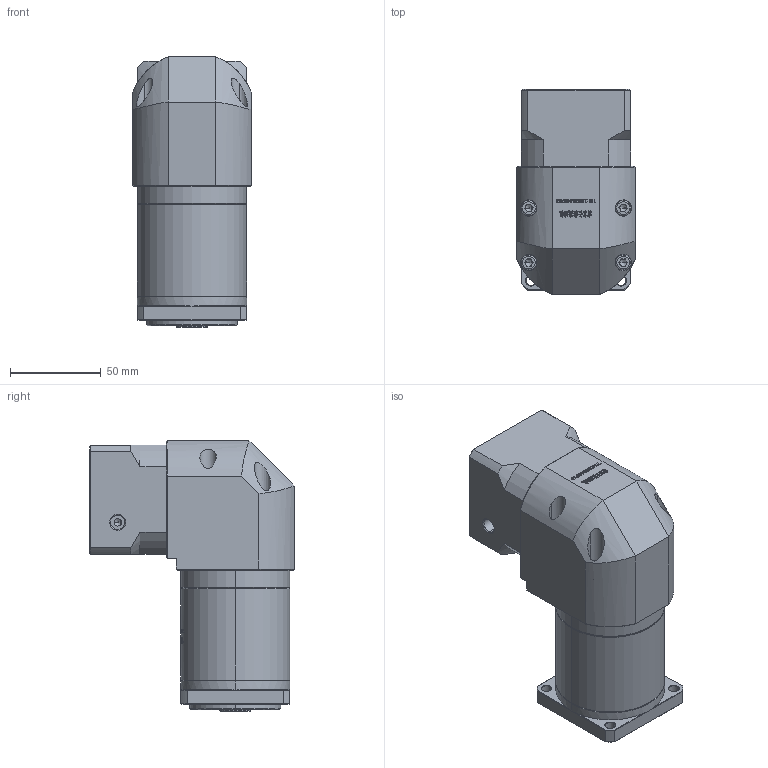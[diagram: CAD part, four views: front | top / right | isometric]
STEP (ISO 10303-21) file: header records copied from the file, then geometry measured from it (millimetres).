
FILE_DESCRIPTION (( 'STEP AP214' ), '1' );
FILE_NAME ('ZFR60-K10-L2-6.35-38.1-47.14x47.14-M4.STEP', '2022-04-20T08:06:33', ( '' ), ( 'Microsoft' ), 'SwSTEP 2.0', 'SolidWorks 2016', '' );
FILE_SCHEMA (( 'AUTOMOTIVE_DESIGN' ));
Length unit declared in the file: millimetre
Products named in the file (1): ZFR60-K10-L2-6.35-38.1-47.14x47.14-M4
Bounding box: 65 x 112.7 x 149 mm (x, y, z)
Volume: 584716 mm3; surface area: 82312.1 mm2
Topology: 5 solids, 6 shells, 2623 faces, 7131 edges, 4645 vertices
Faces by surface type: plane 1391, bspline 584, cylinder 353, cone 283, torus 12
Entity records: 140762 total; most frequent: CARTESIAN_POINT 51099, ORIENTED_EDGE 14222, DIRECTION 10223, EDGE_CURVE 7111, VERTEX_POINT 4645, LINE 4321, VECTOR 4321, AXIS2_PLACEMENT_3D 2951
